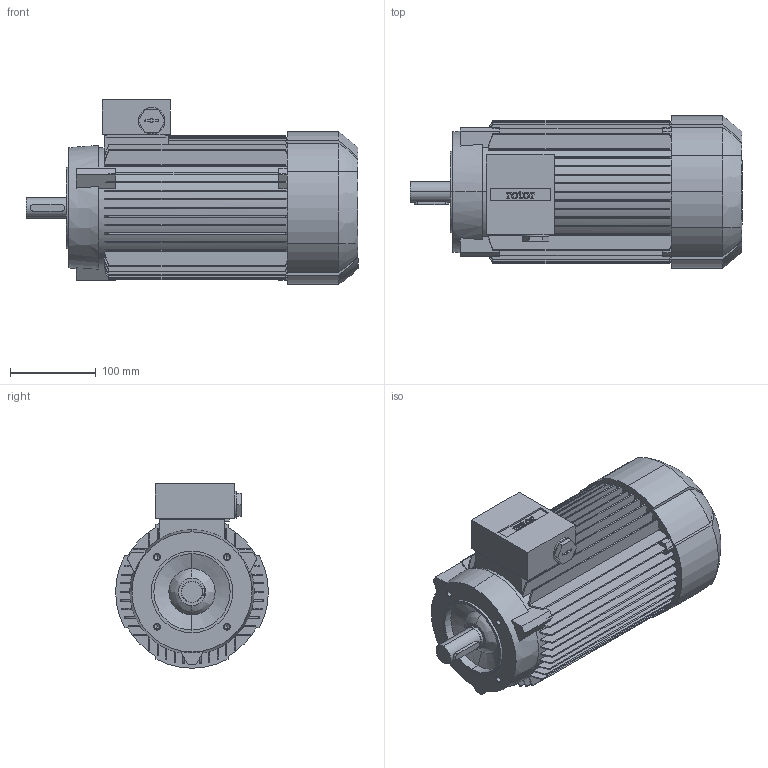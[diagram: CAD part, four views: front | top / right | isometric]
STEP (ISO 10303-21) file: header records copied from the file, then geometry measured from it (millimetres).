
FILE_DESCRIPTION (( 'STEP AP214' ), '1' );
FILE_NAME ('6RN90L06E34 IM2101 FT130.STEP', '2014-09-22T09:58:15', ( 'rbc_ict' ), ( 'REGAL' ), 'SwSTEP 2.0', 'SolidWorks 2012', '' );
FILE_SCHEMA (( 'AUTOMOTIVE_DESIGN' ));
Length unit declared in the file: millimetre
Products named in the file (1): 6RN90L06E34 IM2101 FT130
Bounding box: 387 x 178 x 215 mm (x, y, z)
Volume: 6478029 mm3; surface area: 509144.1 mm2
Topology: 1 solids, 1 shells, 581 faces, 1661 edges, 1099 vertices
Faces by surface type: plane 320, bspline 135, cylinder 106, cone 20
Entity records: 22392 total; most frequent: CARTESIAN_POINT 7851, ORIENTED_EDGE 3306, DIRECTION 2699, EDGE_CURVE 1653, VERTEX_POINT 1099, LINE 913, VECTOR 913, AXIS2_PLACEMENT_3D 893
